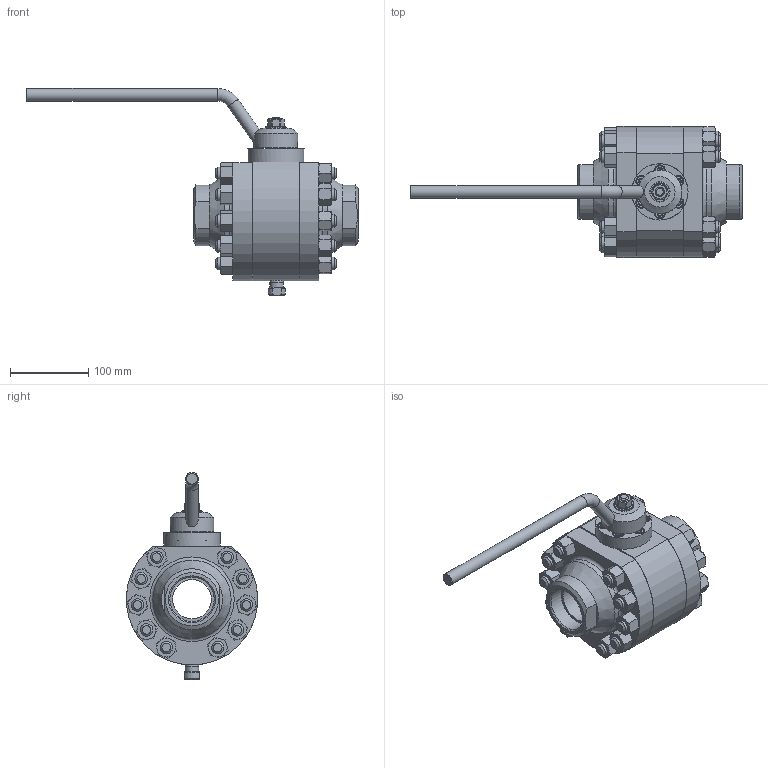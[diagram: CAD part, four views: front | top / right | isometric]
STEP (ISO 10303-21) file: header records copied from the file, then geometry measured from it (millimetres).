
FILE_DESCRIPTION(('STEP AP203'), '1');
FILE_NAME('ZARDP 050.080.10.P.stp', '2013-12-06T07:56:43', ('1'), ('1'), 'ASCON STEP Converter 1.3', 'Kompas 3D', '');
FILE_SCHEMA(('CONFIG_CONTROL_DESIGN','SUPPORT_RESOURCE_SCHEMA'));
Length unit declared in the file: millimetre
Products named in the file (1): 191
Bounding box: 424.31 x 167.66 x 264.6 mm (x, y, z)
Volume: 2403925.1 mm3; surface area: 315740.9 mm2
Topology: 1 solids, 24 shells, 904 faces, 2104 edges, 1353 vertices
Faces by surface type: plane 415, cone 315, cylinder 164, torus 10
Full cylindrical faces by diameter (mm): 6 x6, 8 x8, 8.376 x6, 9 x6, 12 x2, 13 x6, 14 x6, 14.141 x1, 16 x2, 16.01 x20, 17.33 x1, 18 x20, 19.124 x20, 22 x1, 24.8 x1, 25 x2, 26 x1, 35 x1, 35.5 x1, 50 x2, 56 x1, 56.657 x2, 72 x1, 95 x3, 100 x2, 109 x2
Entity records: 40644 total; most frequent: CARTESIAN_POINT 20512, ORIENTED_EDGE 4196, DIRECTION 4009, EDGE_CURVE 2098, AXIS2_PLACEMENT_3D 1610, VERTEX_POINT 1353, EDGE_LOOP 1031, ADVANCED_FACE 904
